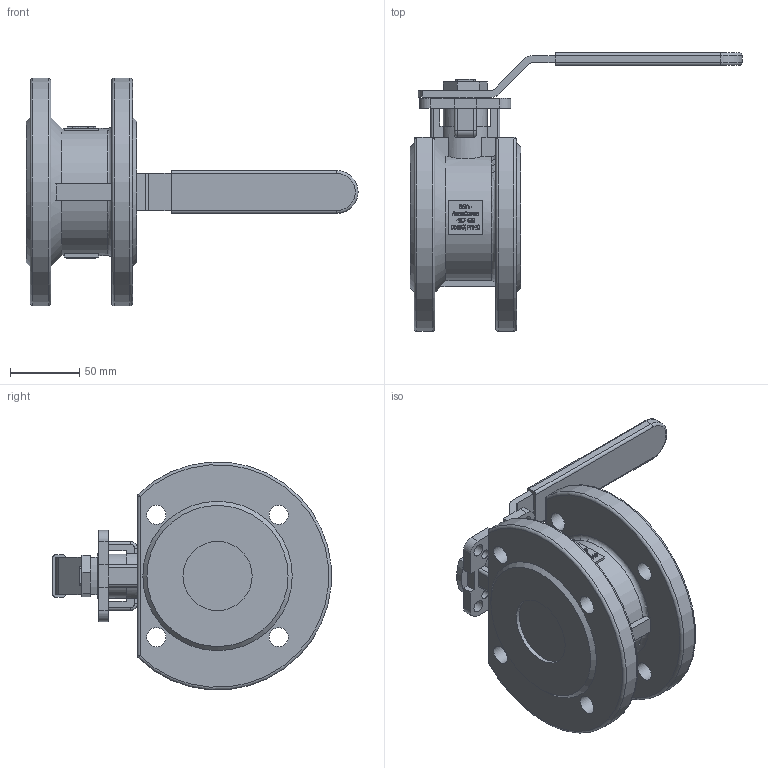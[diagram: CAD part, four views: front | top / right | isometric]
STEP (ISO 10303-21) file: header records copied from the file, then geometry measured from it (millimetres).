
FILE_DESCRIPTION((''),'2;1');
FILE_NAME('K:\Inventor\1 Artikel\12) Flanschen-Kugelhähne\12a) manuell\Econosto\437-GS, 7343\437-GS, DN50\437-GS, DN50, 3D\437-GS, DN50, PN40, HH, 3D.stp','2019-11-11T10:28:21',('claudia'),(''),'Autodesk Inventor 2013','Autodesk Inventor 2013','');
FILE_SCHEMA(('AUTOMOTIVE_DESIGN { 1 0 10303 214 1 1 1 1 }'));
Length unit declared in the file: millimetre
Products named in the file (1): Bauteil6
Bounding box: 240 x 201.29 x 164.52 mm (x, y, z)
Volume: 1030123.4 mm3; surface area: 126693 mm2
Topology: 1 solids, 1 shells, 1304 faces, 3562 edges, 2362 vertices
Faces by surface type: plane 724, bspline 489, cylinder 68, torus 12, sphere 8, cone 3
Full cylindrical faces by diameter (mm): 7 x4, 9 x4, 13.835 x8, 32 x1, 40 x1, 50 x2
Entity records: 44969 total; most frequent: CARTESIAN_POINT 15128, ORIENTED_EDGE 7060, DIRECTION 4348, EDGE_CURVE 3530, VECTOR 2358, LINE 2358, VERTEX_POINT 2352, EDGE_LOOP 1468
